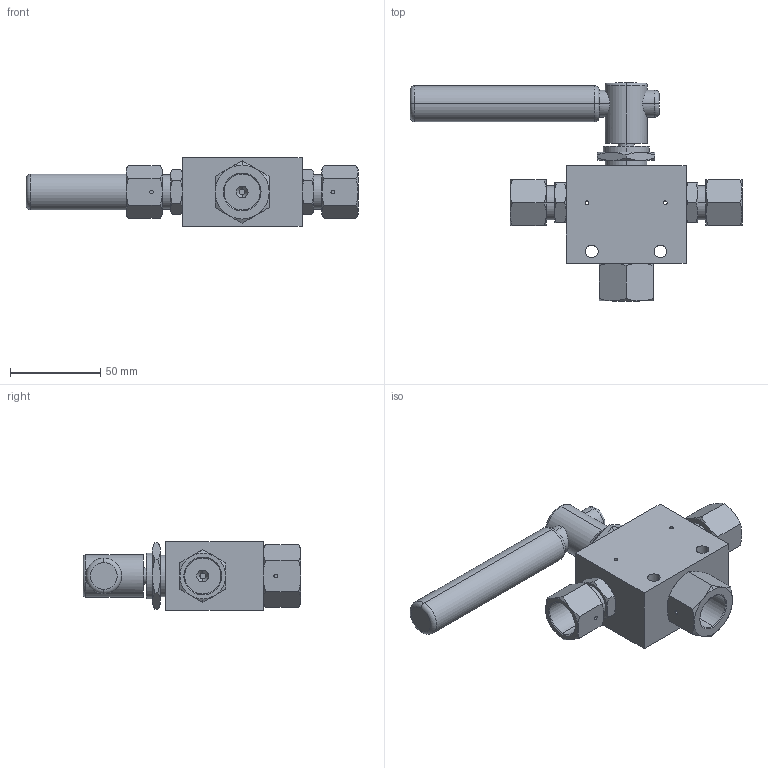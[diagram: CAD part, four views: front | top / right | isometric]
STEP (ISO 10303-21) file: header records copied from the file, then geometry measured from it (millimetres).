
FILE_DESCRIPTION (( 'STEP AP203' ), '1' );
FILE_NAME ('BV6003S06-3-180.STEP', '2022-04-12T10:13:55', ( '' ), ( '' ), 'SwSTEP 2.0', 'SolidWorks 2020', '' );
FILE_SCHEMA (( 'CONFIG_CONTROL_DESIGN' ));
Length unit declared in the file: millimetre
Products named in the file (1): BV6003S06-3-180
Bounding box: 184.33 x 121 x 38 mm (x, y, z)
Volume: 219957.9 mm3; surface area: 42403.1 mm2
Topology: 1 solids, 1 shells, 220 faces, 482 edges, 282 vertices
Faces by surface type: cone 102, plane 62, cylinder 48, torus 8
Entity records: 6801 total; most frequent: CARTESIAN_POINT 2065, DIRECTION 964, ORIENTED_EDGE 956, EDGE_CURVE 478, AXIS2_PLACEMENT_3D 419, VERTEX_POINT 282, EDGE_LOOP 256, FACE_OUTER_BOUND 220
